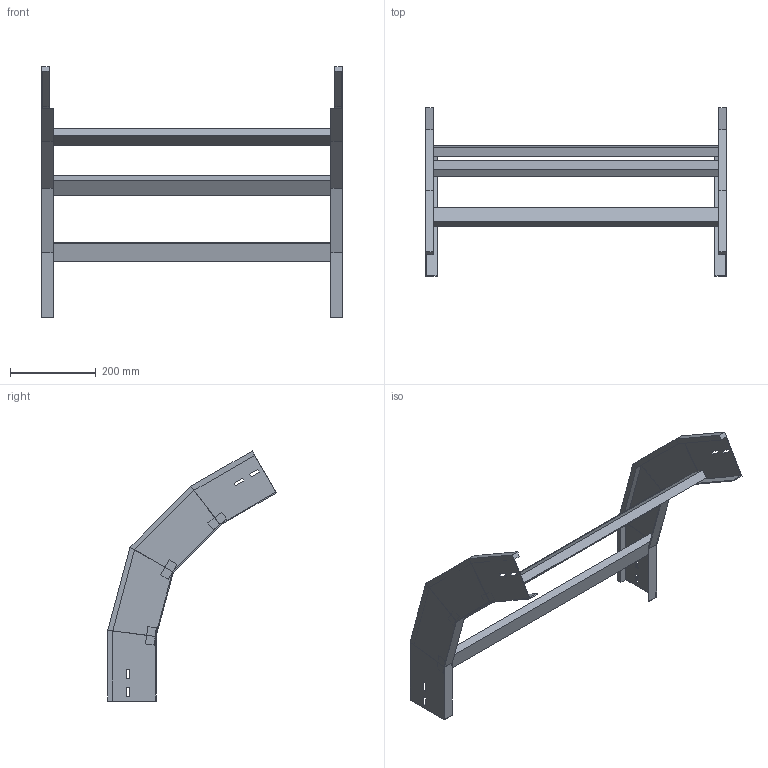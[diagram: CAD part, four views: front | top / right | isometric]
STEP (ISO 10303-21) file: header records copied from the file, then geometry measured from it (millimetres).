
FILE_DESCRIPTION (( 'STEP AP214' ), '1' );
FILE_NAME ('A2_41B3J700.step', '2025-02-21T14:58:31', ( '' ), ( '' ), 'SwSTEP 2.0', 'SolidWorks 2023', '' );
FILE_SCHEMA (( 'AUTOMOTIVE_DESIGN' ));
Length unit declared in the file: millimetre
Products named in the file (3): TRAVERSINO_700; A2_41B3J700; LONGH.DISCESA_60°_H112.5_R300
Assembly tree (5 placements, depth 2):
  A2_41B3J700
    LONGH.DISCESA_60°_H112.5_R300  x2
    TRAVERSINO_700  x3
Bounding box: 700 x 392.12 x 581.75 mm (x, y, z)
Volume: 2329009.3 mm3; surface area: 671981.2 mm2
Topology: 5 solids, 5 shells, 118 faces, 276 edges, 168 vertices
Faces by surface type: plane 118
Entity records: 1672 total; most frequent: CARTESIAN_POINT 276, ORIENTED_EDGE 264, DIRECTION 260, EDGE_CURVE 132, LINE 132, VECTOR 132, VERTEX_POINT 80, AXIS2_PLACEMENT_3D 64
